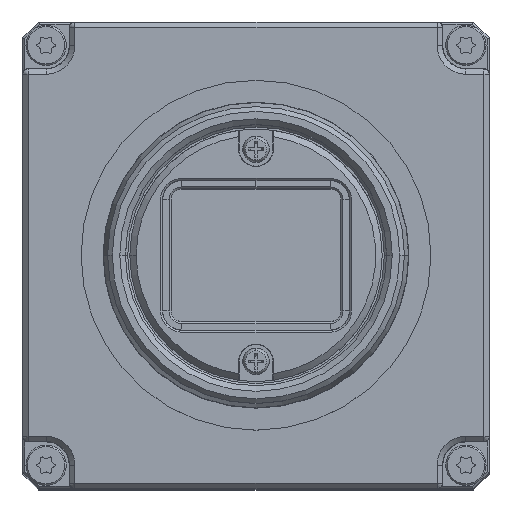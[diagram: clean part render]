
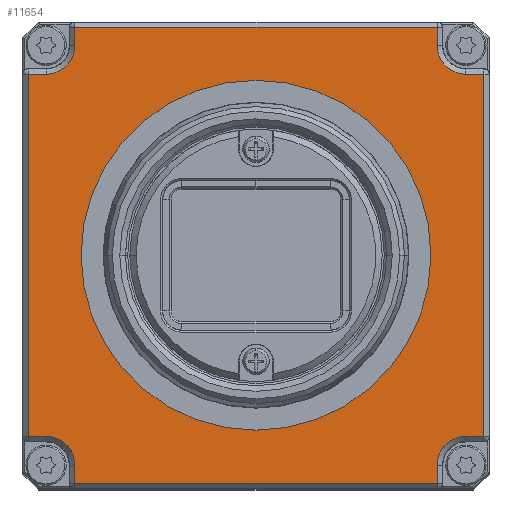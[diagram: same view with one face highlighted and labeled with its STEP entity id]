
A CAD part, top view. The second image highlights one B-rep face of the part: STEP entity #11654.
In plain terms, the highlighted planar face has unit normal (0, 0, 1).
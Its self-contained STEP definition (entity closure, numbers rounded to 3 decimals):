
#149 = VERTEX_POINT ( 'NONE', #17180 ) ;
#194 = VERTEX_POINT ( 'NONE', #6927 ) ;
#462 = DIRECTION ( 'NONE',  ( -1., 0., 0. ) ) ;
#486 = LINE ( 'NONE', #584, #10415 ) ;
#584 = CARTESIAN_POINT ( 'NONE',  ( 19.8, 17.074, 10.3 ) ) ;
#635 = CARTESIAN_POINT ( 'NONE',  ( -21.5, 17.074, 10.3 ) ) ;
#841 = EDGE_CURVE ( 'NONE', #21959, #16916, #13613, .T. ) ;
#1357 = AXIS2_PLACEMENT_3D ( 'NONE', #13101, #21894, #11635 ) ;
#1381 = VECTOR ( 'NONE', #10920, 1000. ) ;
#1533 = ORIENTED_EDGE ( 'NONE', *, *, #21911, .F. ) ;
#1615 = LINE ( 'NONE', #5113, #20165 ) ;
#1768 = DIRECTION ( 'NONE',  ( 1., 0., 0. ) ) ;
#1904 = DIRECTION ( 'NONE',  ( 0., -1., 0. ) ) ;
#1981 = CARTESIAN_POINT ( 'NONE',  ( 19.8, 19.8, 10.3 ) ) ;
#2088 = EDGE_LOOP ( 'NONE', ( #5491, #3332, #8119, #16984, #11265, #6057, #19099, #20310, #10175, #15659, #2327, #2680, #12757, #8688, #16890, #13397 ) ) ;
#2107 = EDGE_CURVE ( 'NONE', #13048, #13747, #12373, .T. ) ;
#2327 = ORIENTED_EDGE ( 'NONE', *, *, #10999, .T. ) ;
#2584 = CARTESIAN_POINT ( 'NONE',  ( 19.8, -17.074, 10.3 ) ) ;
#2680 = ORIENTED_EDGE ( 'NONE', *, *, #8780, .T. ) ;
#2927 = VECTOR ( 'NONE', #16750, 1000. ) ;
#3114 = ORIENTED_EDGE ( 'NONE', *, *, #18138, .F. ) ;
#3243 = LINE ( 'NONE', #17219, #11555 ) ;
#3295 = DIRECTION ( 'NONE',  ( 1., 0., 0. ) ) ;
#3332 = ORIENTED_EDGE ( 'NONE', *, *, #14404, .T. ) ;
#3355 = CARTESIAN_POINT ( 'NONE',  ( -17.074, -19.8, 10.3 ) ) ;
#3470 = CARTESIAN_POINT ( 'NONE',  ( -17.074, -21.5, 10.3 ) ) ;
#3753 = DIRECTION ( 'NONE',  ( 0., 1., 0. ) ) ;
#3816 = FACE_OUTER_BOUND ( 'NONE', #2088, .T. ) ;
#3912 = AXIS2_PLACEMENT_3D ( 'NONE', #19380, #17692, #10934 ) ;
#3918 = LINE ( 'NONE', #13951, #1381 ) ;
#3957 = CARTESIAN_POINT ( 'NONE',  ( 21.5, 17.074, 10.3 ) ) ;
#4092 = CARTESIAN_POINT ( 'NONE',  ( -19.8, -17.074, 10.3 ) ) ;
#4125 = CARTESIAN_POINT ( 'NONE',  ( 0., 0., 10.3 ) ) ;
#4179 = DIRECTION ( 'NONE',  ( -1., 0., 0. ) ) ;
#4340 = VECTOR ( 'NONE', #7338, 1000. ) ;
#4626 = CARTESIAN_POINT ( 'NONE',  ( 17.074, 21.5, 10.3 ) ) ;
#4627 = CARTESIAN_POINT ( 'NONE',  ( 17.074, 21.5, 10.3 ) ) ;
#4677 = AXIS2_PLACEMENT_3D ( 'NONE', #11978, #15249, #15354 ) ;
#5113 = CARTESIAN_POINT ( 'NONE',  ( 21.5, -17.074, 10.3 ) ) ;
#5208 = LINE ( 'NONE', #17051, #16494 ) ;
#5437 = EDGE_LOOP ( 'NONE', ( #1533, #3114 ) ) ;
#5491 = ORIENTED_EDGE ( 'NONE', *, *, #8408, .T. ) ;
#5725 = CARTESIAN_POINT ( 'NONE',  ( -21.5, -17.074, 10.3 ) ) ;
#5727 = DIRECTION ( 'NONE',  ( 1., 0., 0. ) ) ;
#6021 = LINE ( 'NONE', #18087, #21303 ) ;
#6057 = ORIENTED_EDGE ( 'NONE', *, *, #18186, .T. ) ;
#6265 = CARTESIAN_POINT ( 'NONE',  ( -19.8, 17.074, 10.3 ) ) ;
#6337 = DIRECTION ( 'NONE',  ( 0., -1., 0. ) ) ;
#6351 = CARTESIAN_POINT ( 'NONE',  ( -17.074, 19.8, 10.3 ) ) ;
#6375 = EDGE_CURVE ( 'NONE', #194, #16359, #5208, .T. ) ;
#6395 = CIRCLE ( 'NONE', #1357, 2.726 ) ;
#6607 = VERTEX_POINT ( 'NONE', #4626 ) ;
#6927 = CARTESIAN_POINT ( 'NONE',  ( -17.074, -21.5, 10.3 ) ) ;
#7338 = DIRECTION ( 'NONE',  ( 0., 1., 0. ) ) ;
#7390 = DIRECTION ( 'NONE',  ( 0., 0., 1. ) ) ;
#7472 = CARTESIAN_POINT ( 'NONE',  ( 17.074, -19.8, 10.3 ) ) ;
#7688 = CARTESIAN_POINT ( 'NONE',  ( -16.5, 0., 10.3 ) ) ;
#7698 = VERTEX_POINT ( 'NONE', #4092 ) ;
#8050 = EDGE_CURVE ( 'NONE', #8144, #18944, #14432, .T. ) ;
#8119 = ORIENTED_EDGE ( 'NONE', *, *, #9594, .T. ) ;
#8144 = VERTEX_POINT ( 'NONE', #16112 ) ;
#8408 = EDGE_CURVE ( 'NONE', #6607, #14504, #3243, .T. ) ;
#8463 = VERTEX_POINT ( 'NONE', #3355 ) ;
#8551 = AXIS2_PLACEMENT_3D ( 'NONE', #10686, #15973, #5727 ) ;
#8688 = ORIENTED_EDGE ( 'NONE', *, *, #12599, .T. ) ;
#8771 = LINE ( 'NONE', #3470, #21846 ) ;
#8780 = EDGE_CURVE ( 'NONE', #16416, #8144, #1615, .T. ) ;
#8856 = DIRECTION ( 'NONE',  ( 0., 0., -1. ) ) ;
#9167 = DIRECTION ( 'NONE',  ( 0., 0., -1. ) ) ;
#9594 = EDGE_CURVE ( 'NONE', #19932, #18231, #12843, .T. ) ;
#10175 = ORIENTED_EDGE ( 'NONE', *, *, #6375, .T. ) ;
#10249 = EDGE_CURVE ( 'NONE', #8463, #194, #8771, .T. ) ;
#10415 = VECTOR ( 'NONE', #4179, 1000. ) ;
#10686 = CARTESIAN_POINT ( 'NONE',  ( 0., 0., 10.3 ) ) ;
#10704 = PLANE ( 'NONE',  #3912 ) ;
#10720 = CARTESIAN_POINT ( 'NONE',  ( 21.5, 17.065, 10.3 ) ) ;
#10920 = DIRECTION ( 'NONE',  ( 1., 0., 0. ) ) ;
#10934 = DIRECTION ( 'NONE',  ( 1., 0., 0. ) ) ;
#10941 = VECTOR ( 'NONE', #3753, 1000. ) ;
#10999 = EDGE_CURVE ( 'NONE', #19616, #16416, #6395, .T. ) ;
#11179 = CIRCLE ( 'NONE', #4677, 2.726 ) ;
#11265 = ORIENTED_EDGE ( 'NONE', *, *, #841, .T. ) ;
#11555 = VECTOR ( 'NONE', #20274, 1000. ) ;
#11635 = DIRECTION ( 'NONE',  ( 1., 0., 0. ) ) ;
#11654 = ADVANCED_FACE ( 'NONE', ( #3816, #14087 ), #10704, .T. ) ;
#11754 = AXIS2_PLACEMENT_3D ( 'NONE', #17743, #9167, #16030 ) ;
#11978 = CARTESIAN_POINT ( 'NONE',  ( -19.8, -19.8, 10.3 ) ) ;
#12090 = AXIS2_PLACEMENT_3D ( 'NONE', #4125, #7390, #12697 ) ;
#12373 = CIRCLE ( 'NONE', #13088, 2.726 ) ;
#12400 = LINE ( 'NONE', #17579, #19811 ) ;
#12599 = EDGE_CURVE ( 'NONE', #18944, #13048, #486, .T. ) ;
#12697 = DIRECTION ( 'NONE',  ( 1., 0., 0. ) ) ;
#12757 = ORIENTED_EDGE ( 'NONE', *, *, #8050, .T. ) ;
#12843 = CIRCLE ( 'NONE', #11754, 2.726 ) ;
#13048 = VERTEX_POINT ( 'NONE', #20922 ) ;
#13088 = AXIS2_PLACEMENT_3D ( 'NONE', #1981, #8856, #1768 ) ;
#13101 = CARTESIAN_POINT ( 'NONE',  ( 19.8, -19.8, 10.3 ) ) ;
#13218 = EDGE_CURVE ( 'NONE', #7698, #8463, #11179, .T. ) ;
#13397 = ORIENTED_EDGE ( 'NONE', *, *, #14912, .T. ) ;
#13477 = EDGE_CURVE ( 'NONE', #18231, #21959, #12400, .T. ) ;
#13613 = LINE ( 'NONE', #18679, #2927 ) ;
#13747 = VERTEX_POINT ( 'NONE', #16877 ) ;
#13951 = CARTESIAN_POINT ( 'NONE',  ( -19.8, -17.074, 10.3 ) ) ;
#14087 = FACE_BOUND ( 'NONE', #5437, .T. ) ;
#14404 = EDGE_CURVE ( 'NONE', #14504, #19932, #6021, .T. ) ;
#14432 = LINE ( 'NONE', #10720, #4340 ) ;
#14434 = CARTESIAN_POINT ( 'NONE',  ( 17.074, -21.5, 10.3 ) ) ;
#14504 = VERTEX_POINT ( 'NONE', #15253 ) ;
#14912 = EDGE_CURVE ( 'NONE', #13747, #6607, #20082, .T. ) ;
#14989 = DIRECTION ( 'NONE',  ( 0., 1., 0. ) ) ;
#15249 = DIRECTION ( 'NONE',  ( 0., 0., -1. ) ) ;
#15253 = CARTESIAN_POINT ( 'NONE',  ( -17.074, 21.5, 10.3 ) ) ;
#15354 = DIRECTION ( 'NONE',  ( 1., 0., 0. ) ) ;
#15478 = DIRECTION ( 'NONE',  ( 1., 0., 0. ) ) ;
#15659 = ORIENTED_EDGE ( 'NONE', *, *, #15906, .T. ) ;
#15906 = EDGE_CURVE ( 'NONE', #16359, #19616, #19203, .T. ) ;
#15932 = VERTEX_POINT ( 'NONE', #7688 ) ;
#15973 = DIRECTION ( 'NONE',  ( 0., 0., 1. ) ) ;
#16030 = DIRECTION ( 'NONE',  ( 1., 0., 0. ) ) ;
#16112 = CARTESIAN_POINT ( 'NONE',  ( 21.5, -17.074, 10.3 ) ) ;
#16359 = VERTEX_POINT ( 'NONE', #14434 ) ;
#16416 = VERTEX_POINT ( 'NONE', #2584 ) ;
#16494 = VECTOR ( 'NONE', #3295, 1000. ) ;
#16750 = DIRECTION ( 'NONE',  ( 0., -1., 0. ) ) ;
#16877 = CARTESIAN_POINT ( 'NONE',  ( 17.074, 19.8, 10.3 ) ) ;
#16890 = ORIENTED_EDGE ( 'NONE', *, *, #2107, .T. ) ;
#16916 = VERTEX_POINT ( 'NONE', #5725 ) ;
#16984 = ORIENTED_EDGE ( 'NONE', *, *, #13477, .T. ) ;
#17051 = CARTESIAN_POINT ( 'NONE',  ( 17.065, -21.5, 10.3 ) ) ;
#17180 = CARTESIAN_POINT ( 'NONE',  ( 16.5, 0., 10.3 ) ) ;
#17219 = CARTESIAN_POINT ( 'NONE',  ( -17.065, 21.5, 10.3 ) ) ;
#17579 = CARTESIAN_POINT ( 'NONE',  ( -21.5, 17.074, 10.3 ) ) ;
#17582 = CIRCLE ( 'NONE', #8551, 16.5 ) ;
#17692 = DIRECTION ( 'NONE',  ( 0., 0., 1. ) ) ;
#17743 = CARTESIAN_POINT ( 'NONE',  ( -19.8, 19.8, 10.3 ) ) ;
#18087 = CARTESIAN_POINT ( 'NONE',  ( -17.074, 19.8, 10.3 ) ) ;
#18138 = EDGE_CURVE ( 'NONE', #149, #15932, #17582, .T. ) ;
#18186 = EDGE_CURVE ( 'NONE', #16916, #7698, #3918, .T. ) ;
#18231 = VERTEX_POINT ( 'NONE', #6265 ) ;
#18679 = CARTESIAN_POINT ( 'NONE',  ( -21.5, -17.065, 10.3 ) ) ;
#18944 = VERTEX_POINT ( 'NONE', #3957 ) ;
#19099 = ORIENTED_EDGE ( 'NONE', *, *, #13218, .T. ) ;
#19203 = LINE ( 'NONE', #7472, #10941 ) ;
#19380 = CARTESIAN_POINT ( 'NONE',  ( 0., 0., 10.3 ) ) ;
#19616 = VERTEX_POINT ( 'NONE', #20592 ) ;
#19811 = VECTOR ( 'NONE', #462, 1000. ) ;
#19932 = VERTEX_POINT ( 'NONE', #6351 ) ;
#20082 = LINE ( 'NONE', #4627, #20968 ) ;
#20165 = VECTOR ( 'NONE', #15478, 1000. ) ;
#20274 = DIRECTION ( 'NONE',  ( -1., 0., 0. ) ) ;
#20310 = ORIENTED_EDGE ( 'NONE', *, *, #10249, .T. ) ;
#20592 = CARTESIAN_POINT ( 'NONE',  ( 17.074, -19.8, 10.3 ) ) ;
#20922 = CARTESIAN_POINT ( 'NONE',  ( 19.8, 17.074, 10.3 ) ) ;
#20968 = VECTOR ( 'NONE', #14989, 1000. ) ;
#21303 = VECTOR ( 'NONE', #6337, 1000. ) ;
#21813 = CIRCLE ( 'NONE', #12090, 16.5 ) ;
#21846 = VECTOR ( 'NONE', #1904, 1000. ) ;
#21894 = DIRECTION ( 'NONE',  ( 0., 0., -1. ) ) ;
#21911 = EDGE_CURVE ( 'NONE', #15932, #149, #21813, .T. ) ;
#21959 = VERTEX_POINT ( 'NONE', #635 ) ;
